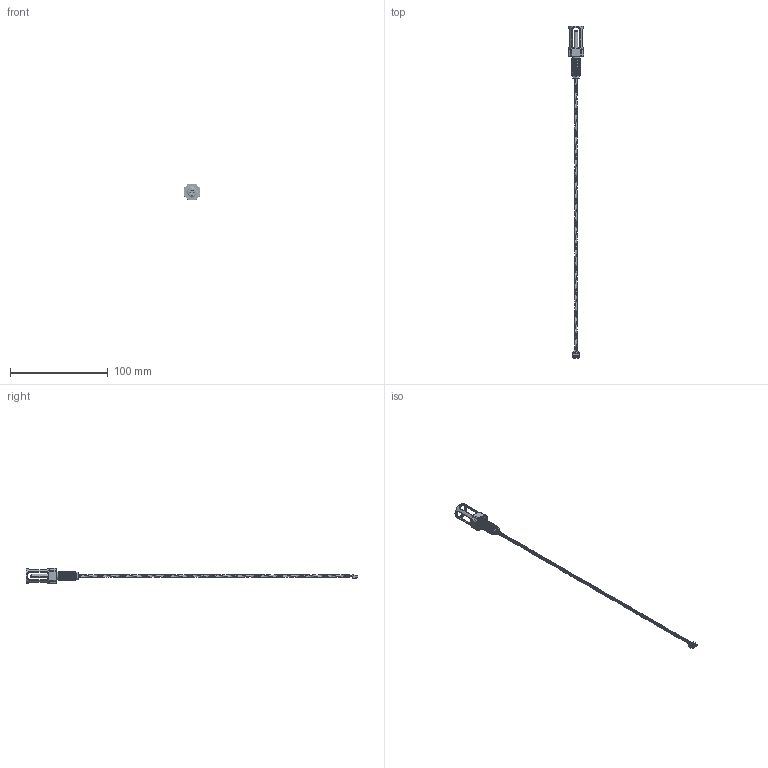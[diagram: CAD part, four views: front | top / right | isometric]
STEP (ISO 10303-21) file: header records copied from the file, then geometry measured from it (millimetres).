
FILE_DESCRIPTION (( 'STEP AP214' ), '1' );
FILE_NAME ('CELSIUS-2-TMP119-PUBLIC.STEP', '2026-09-17T20:54:44', ( '' ), ( '' ), 'SwSTEP 2.0', 'SolidWorks 2024', '' );
FILE_SCHEMA (( 'AUTOMOTIVE_DESIGN' ));
Length unit declared in the file: millimetre
Products named in the file (1): CELSIUS-2-TMP119-PUBLIC
Bounding box: 16 x 339.4 x 16 mm (x, y, z)
Volume: 4451 mm3; surface area: 9496.4 mm2
Topology: 2 solids, 6 shells, 572 faces, 1568 edges, 1000 vertices
Faces by surface type: cylinder 241, plane 214, bspline 56, cone 40, torus 21
Entity records: 78001 total; most frequent: CARTESIAN_POINT 58058, ORIENTED_EDGE 3136, DIRECTION 2567, EDGE_CURVE 1568, VERTEX_POINT 1000, AXIS2_PLACEMENT_3D 898, VECTOR 771, LINE 771
